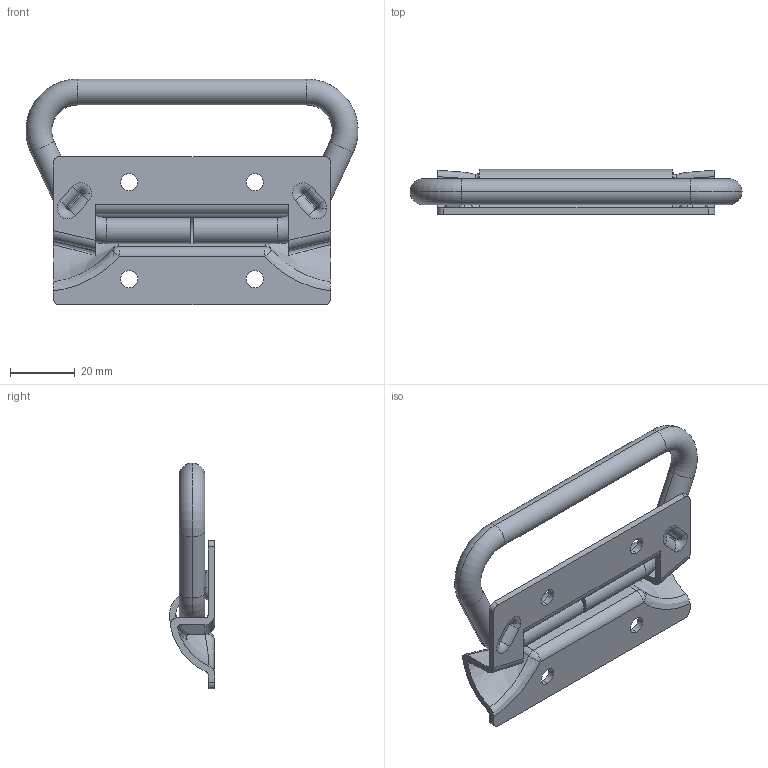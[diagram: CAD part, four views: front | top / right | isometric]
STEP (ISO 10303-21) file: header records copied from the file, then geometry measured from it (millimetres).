
FILE_DESCRIPTION (( 'STEP AP203' ), '1' );
FILE_NAME ('SK4-022A.STEP', '2018-11-02T05:16:20', ( 'admin' ), ( 'Microsoft' ), 'SwSTEP 2.0', 'SolidWorks 2015', '' );
FILE_SCHEMA (( 'CONFIG_CONTROL_DESIGN' ));
Length unit declared in the file: millimetre
Products named in the file (3): SK4-022A; SK4-022A減諶
Assembly tree (2 placements, depth 2):
  SK4-022A
    SK4-022A
    SK4-022A減諶
Bounding box: 102.93 x 14 x 70 mm (x, y, z)
Volume: 22714.9 mm3; surface area: 17672.6 mm2
Topology: 2 solids, 2 shells, 200 faces, 526 edges, 331 vertices
Faces by surface type: plane 77, bspline 47, cylinder 44, torus 22, sphere 10
Entity records: 13639 total; most frequent: CARTESIAN_POINT 8760, ORIENTED_EDGE 1024, DIRECTION 851, EDGE_CURVE 512, VERTEX_POINT 328, AXIS2_PLACEMENT_3D 300, LINE 251, VECTOR 251
